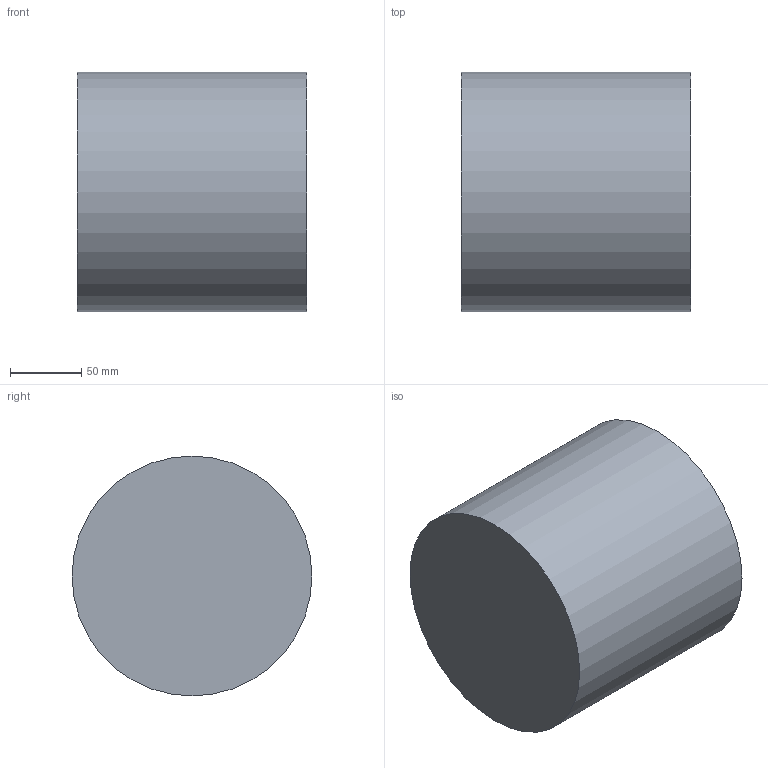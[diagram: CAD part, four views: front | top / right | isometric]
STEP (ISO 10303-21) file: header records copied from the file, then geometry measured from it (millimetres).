
FILE_DESCRIPTION(/* description */ (''),/* implementation_level */ '2;1');
FILE_NAME(/* name */ 'Endkappe 168.3.stp',/* time_stamp */ '2024-03-12T16:01:43+01:00',/* author */ ('peter.csaszar'),/* organization */ (''),/* preprocessor_version */ 'ST-DEVELOPER v20',/* originating_system */ 'Autodesk Inventor 2024',/* authorisation */ '');
FILE_SCHEMA (('AUTOMOTIVE_DESIGN { 1 0 10303 214 3 1 1 }'));
Length unit declared in the file: millimetre
Products named in the file (1): Bauteil1
Bounding box: 161 x 168.3 x 168.3 mm (x, y, z)
Volume: 272228.6 mm3; surface area: 210781.3 mm2
Topology: 1 solids, 1 shells, 5 faces, 6 edges, 4 vertices
Faces by surface type: plane 3, cylinder 2
Full cylindrical faces by diameter (mm): 163.1 x1, 168.3 x1
Entity records: 147 total; most frequent: DIRECTION 22, CARTESIAN_POINT 16, ORIENTED_EDGE 12, AXIS2_PLACEMENT_3D 10, EDGE_LOOP 6, EDGE_CURVE 6, FACE_OUTER_BOUND 5, ADVANCED_FACE 5
